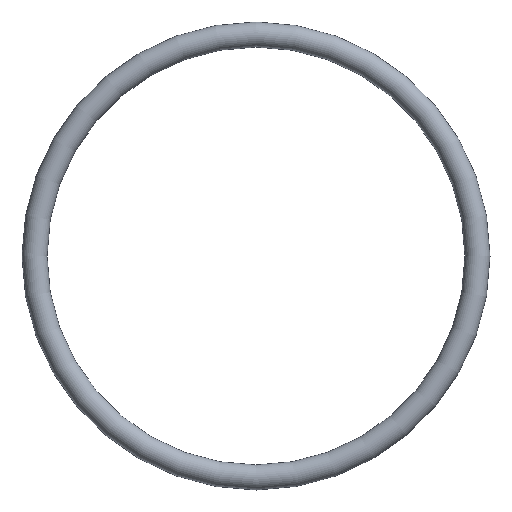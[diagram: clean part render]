
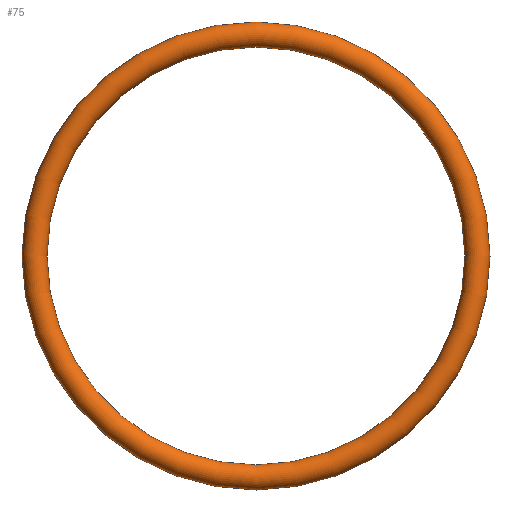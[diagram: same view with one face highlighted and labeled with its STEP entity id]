
A CAD part, front view. The second image highlights one B-rep face of the part: STEP entity #75.
In plain terms, the highlighted toroidal (fillet/blend) face has major radius 26.5 mm and minor radius 1.5 mm.
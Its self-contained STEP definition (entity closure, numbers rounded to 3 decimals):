
#75 = ADVANCED_FACE( '', ( #77 ), #78, .T. );
#77 = FACE_BOUND( '', #79, .T. );
#78 = TOROIDAL_SURFACE( '', #80, 26.5, 1.5 );
#79 = VERTEX_LOOP( '', #81 );
#80 = AXIS2_PLACEMENT_3D( '', #82, #83, #84 );
#81 = VERTEX_POINT( '', #85 );
#82 = CARTESIAN_POINT( '', ( 0., 0., 0. ) );
#83 = DIRECTION( '', ( 0., -1., 0. ) );
#84 = DIRECTION( '', ( 0., 0., -1. ) );
#85 = CARTESIAN_POINT( '', ( 0., 0., -28. ) );
